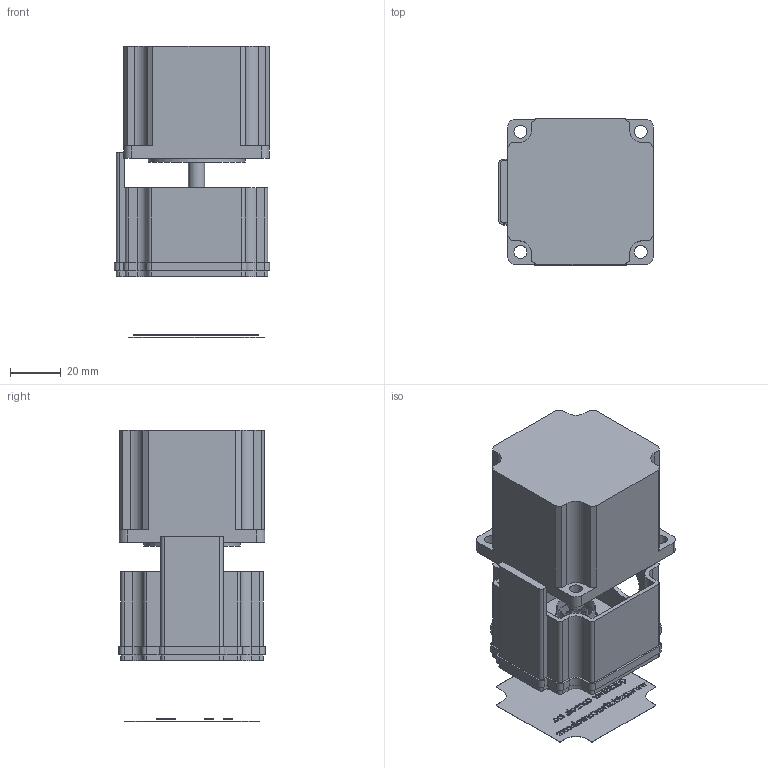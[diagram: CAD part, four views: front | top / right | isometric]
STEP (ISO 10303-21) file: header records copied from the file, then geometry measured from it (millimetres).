
FILE_DESCRIPTION(/* description */ ('Alibre Inc.'),/* implementation_level */ '2;1');
FILE_NAME(/* name */ 'export0',/* time_stamp */ '2008-02-05T10:26:26-08:00',/* author */ (''),/* organization */ (''),/* preprocessor_version */ 'ST-DEVELOPER v10',/* originating_system */ 'Alibre',/* authorisation */ '');
FILE_SCHEMA (('ALIBRE_SCHEMA','CONFIG_CONTROL_DESIGN'));
Length unit declared in the file: centimetre
Products named in the file (8): ID_1; ID_2
Bounding box: 60.96 x 57.4 x 114.46 mm (x, y, z)
Volume: 154274.1 mm3; surface area: 47374.5 mm2
Topology: 62 solids, 62 shells, 1256 faces, 3297 edges, 2184 vertices
Faces by surface type: bspline 573, plane 561, cylinder 121, cone 1
Full cylindrical faces by diameter (mm): 1.216 x14, 5.08 x4, 6.35 x2, 8.89 x1, 14.732 x1, 15.24 x1, 16 x1, 19.99 x1, 38.1 x1
Entity records: 70601 total; most frequent: CARTESIAN_POINT 18033, ORIENTED_EDGE 6598, CONSTRAINTPAIRUV 4798, DIRECTION 4236, EDGE_CURVE 3268, REFERENCEPOINTUV 2930, PERSISTANTTOPOLOGYATTRIBUTE 2891, VECTOR 2815
